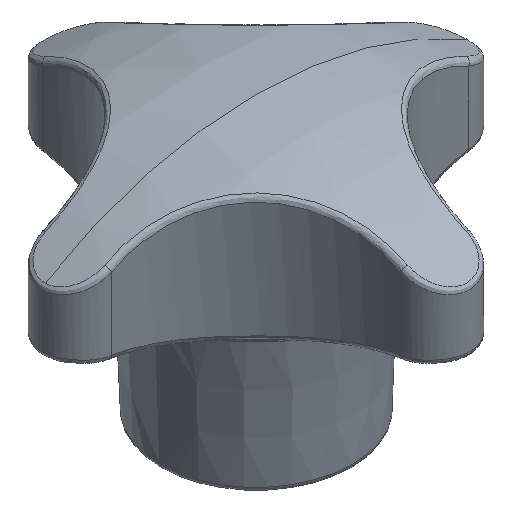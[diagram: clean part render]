
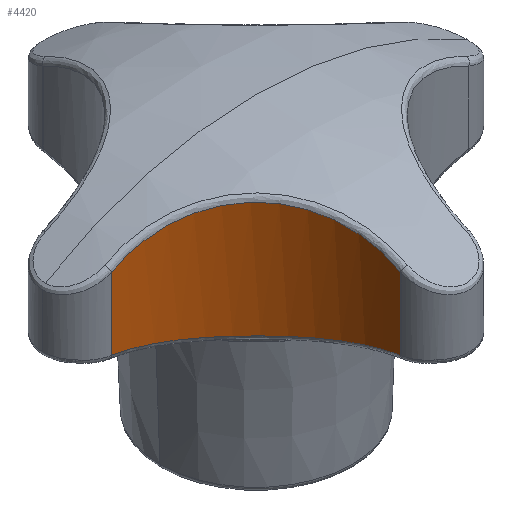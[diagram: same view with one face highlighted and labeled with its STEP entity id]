
A CAD part, isometric view. The second image highlights one B-rep face of the part: STEP entity #4420.
In plain terms, the highlighted cylindrical face has radius 13.231 mm (diameter 26.462 mm), a partial arc.
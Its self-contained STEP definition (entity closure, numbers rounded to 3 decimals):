
#1499 = CARTESIAN_POINT ( 'NONE',  ( -16.727, -3.18, 14.766 ) ) ;
#1675 = CARTESIAN_POINT ( 'NONE',  ( -16.727, -3.18, 21.509 ) ) ;
#1703 = CARTESIAN_POINT ( 'NONE',  ( -16.727, -3.18, 26. ) ) ;
#1704 = LINE ( 'NONE', #1703, #1728 ) ;
#1717 = DIRECTION ( 'NONE',  ( 0., 0., -1. ) ) ;
#1728 = VECTOR ( 'NONE', #1717, 1000. ) ;
#2116 = CYLINDRICAL_SURFACE ( 'NONE', #2191, 13.231 ) ;
#2117 = CARTESIAN_POINT ( 'NONE',  ( -4.407, -10.805, 23.792 ) ) ;
#2118 = CARTESIAN_POINT ( 'NONE',  ( -3.924, -12.055, 23.43 ) ) ;
#2119 = CARTESIAN_POINT ( 'NONE',  ( -3.784, -12.48, 23.294 ) ) ;
#2120 = CARTESIAN_POINT ( 'NONE',  ( -3.55, -13.335, 22.998 ) ) ;
#2121 = CARTESIAN_POINT ( 'NONE',  ( -3.456, -13.761, 22.838 ) ) ;
#2122 = CARTESIAN_POINT ( 'NONE',  ( -3.239, -15.034, 22.327 ) ) ;
#2123 = CARTESIAN_POINT ( 'NONE',  ( -3.18, -15.875, 21.944 ) ) ;
#2124 = CARTESIAN_POINT ( 'NONE',  ( -3.199, -16.708, 21.517 ) ) ;
#2126 = B_SPLINE_CURVE_WITH_KNOTS ( 'NONE', 3,
 ( #2124, #2123, #2122, #2121, #2120, #2119, #2118, #2117, #2175, #2174, #2173, #2172, #2171, #2170, #2169, #2168, #2167, #2166, #2165, #2164, #2163, #2162, #2161, #2160, #2159, #2158, #2157, #2156 ),
 .UNSPECIFIED., .F., .F.,
 ( 4, 2, 2, 2, 2, 2, 2, 2, 2, 2, 2, 2, 2, 4 ),
 ( 0., 0.003, 0.004, 0.006, 0.008, 0.01, 0.011, 0.012, 0.014, 0.015, 0.017, 0.019, 0.021, 0.022 ),
 .UNSPECIFIED. ) ;
#2156 = CARTESIAN_POINT ( 'NONE',  ( -16.727, -3.18, 21.509 ) ) ;
#2157 = CARTESIAN_POINT ( 'NONE',  ( -16.31, -3.17, 21.723 ) ) ;
#2158 = CARTESIAN_POINT ( 'NONE',  ( -15.89, -3.18, 21.927 ) ) ;
#2159 = CARTESIAN_POINT ( 'NONE',  ( -15.041, -3.242, 22.315 ) ) ;
#2160 = CARTESIAN_POINT ( 'NONE',  ( -14.612, -3.294, 22.498 ) ) ;
#2161 = CARTESIAN_POINT ( 'NONE',  ( -13.333, -3.514, 23.012 ) ) ;
#2162 = CARTESIAN_POINT ( 'NONE',  ( -12.485, -3.745, 23.306 ) ) ;
#2163 = CARTESIAN_POINT ( 'NONE',  ( -11.221, -4.235, 23.672 ) ) ;
#2164 = CARTESIAN_POINT ( 'NONE',  ( -10.806, -4.421, 23.78 ) ) ;
#2165 = CARTESIAN_POINT ( 'NONE',  ( -9.996, -4.835, 23.966 ) ) ;
#2166 = CARTESIAN_POINT ( 'NONE',  ( -9.601, -5.064, 24.044 ) ) ;
#2167 = CARTESIAN_POINT ( 'NONE',  ( -8.83, -5.565, 24.17 ) ) ;
#2168 = CARTESIAN_POINT ( 'NONE',  ( -8.453, -5.839, 24.218 ) ) ;
#2169 = CARTESIAN_POINT ( 'NONE',  ( -7.728, -6.427, 24.282 ) ) ;
#2170 = CARTESIAN_POINT ( 'NONE',  ( -7.384, -6.738, 24.297 ) ) ;
#2171 = CARTESIAN_POINT ( 'NONE',  ( -6.732, -7.392, 24.297 ) ) ;
#2172 = CARTESIAN_POINT ( 'NONE',  ( -6.423, -7.736, 24.281 ) ) ;
#2173 = CARTESIAN_POINT ( 'NONE',  ( -5.842, -8.456, 24.217 ) ) ;
#2174 = CARTESIAN_POINT ( 'NONE',  ( -5.567, -8.835, 24.168 ) ) ;
#2175 = CARTESIAN_POINT ( 'NONE',  ( -4.815, -9.999, 23.977 ) ) ;
#2179 = B_SPLINE_CURVE_WITH_KNOTS ( 'NONE', 3,
 ( #2240, #2239, #2238, #2237, #2236, #2235, #2229, #2228, #2227, #2226, #2225, #2224, #2223, #2222, #2221, #2220, #2219, #2218, #2217, #2216, #2215, #2214 ),
 .UNSPECIFIED., .F., .F.,
 ( 4, 2, 2, 2, 2, 2, 2, 2, 2, 2, 4 ),
 ( 0., 0.003, 0.004, 0.005, 0.008, 0.009, 0.011, 0.013, 0.016, 0.019, 0.021 ),
 .UNSPECIFIED. ) ;
#2182 = DIRECTION ( 'NONE',  ( 0., 0., -1. ) ) ;
#2183 = VECTOR ( 'NONE', #2182, 1000. ) ;
#2185 = CARTESIAN_POINT ( 'NONE',  ( -3.199, -16.708, 26. ) ) ;
#2186 = LINE ( 'NONE', #2185, #2183 ) ;
#2187 = DIRECTION ( 'NONE',  ( -1., 0., 0. ) ) ;
#2188 = DIRECTION ( 'NONE',  ( 0., 0., -1. ) ) ;
#2189 = CARTESIAN_POINT ( 'NONE',  ( -16.427, -16.408, 26. ) ) ;
#2191 = AXIS2_PLACEMENT_3D ( 'NONE', #2189, #2188, #2187 ) ;
#2198 = CARTESIAN_POINT ( 'NONE',  ( -3.199, -16.708, 14.763 ) ) ;
#2199 = FACE_OUTER_BOUND ( 'NONE', #4352, .T. ) ;
#2201 = CARTESIAN_POINT ( 'NONE',  ( -3.199, -16.708, 21.517 ) ) ;
#2214 = CARTESIAN_POINT ( 'NONE',  ( -3.199, -16.708, 14.763 ) ) ;
#2215 = CARTESIAN_POINT ( 'NONE',  ( -3.179, -15.816, 14.601 ) ) ;
#2216 = CARTESIAN_POINT ( 'NONE',  ( -3.248, -14.934, 14.444 ) ) ;
#2217 = CARTESIAN_POINT ( 'NONE',  ( -3.562, -13.191, 14.143 ) ) ;
#2218 = CARTESIAN_POINT ( 'NONE',  ( -3.811, -12.323, 13.999 ) ) ;
#2219 = CARTESIAN_POINT ( 'NONE',  ( -4.47, -10.673, 13.749 ) ) ;
#2220 = CARTESIAN_POINT ( 'NONE',  ( -4.881, -9.883, 13.642 ) ) ;
#2221 = CARTESIAN_POINT ( 'NONE',  ( -5.876, -8.373, 13.49 ) ) ;
#2222 = CARTESIAN_POINT ( 'NONE',  ( -6.443, -7.679, 13.449 ) ) ;
#2223 = CARTESIAN_POINT ( 'NONE',  ( -7.392, -6.732, 13.45 ) ) ;
#2224 = CARTESIAN_POINT ( 'NONE',  ( -7.724, -6.431, 13.46 ) ) ;
#2225 = CARTESIAN_POINT ( 'NONE',  ( -8.424, -5.861, 13.501 ) ) ;
#2226 = CARTESIAN_POINT ( 'NONE',  ( -8.791, -5.593, 13.531 ) ) ;
#2227 = CARTESIAN_POINT ( 'NONE',  ( -9.912, -4.857, 13.645 ) ) ;
#2228 = CARTESIAN_POINT ( 'NONE',  ( -10.699, -4.447, 13.752 ) ) ;
#2229 = CARTESIAN_POINT ( 'NONE',  ( -11.939, -3.953, 13.94 ) ) ;
#2235 = CARTESIAN_POINT ( 'NONE',  ( -12.365, -3.807, 14.008 ) ) ;
#2236 = CARTESIAN_POINT ( 'NONE',  ( -13.222, -3.563, 14.149 ) ) ;
#2237 = CARTESIAN_POINT ( 'NONE',  ( -13.653, -3.463, 14.222 ) ) ;
#2238 = CARTESIAN_POINT ( 'NONE',  ( -14.955, -3.229, 14.447 ) ) ;
#2239 = CARTESIAN_POINT ( 'NONE',  ( -15.835, -3.16, 14.604 ) ) ;
#2240 = CARTESIAN_POINT ( 'NONE',  ( -16.727, -3.18, 14.766 ) ) ;
#4193 = VERTEX_POINT ( 'NONE', #1499 ) ;
#4261 = EDGE_CURVE ( 'NONE', #4262, #4193, #1704, .T. ) ;
#4262 = VERTEX_POINT ( 'NONE', #1675 ) ;
#4352 = EDGE_LOOP ( 'NONE', ( #4358, #4433, #4419, #4405 ) ) ;
#4358 = ORIENTED_EDGE ( 'NONE', *, *, #4261, .T. ) ;
#4401 = EDGE_CURVE ( 'NONE', #4416, #4262, #2126, .T. ) ;
#4405 = ORIENTED_EDGE ( 'NONE', *, *, #4401, .T. ) ;
#4416 = VERTEX_POINT ( 'NONE', #2201 ) ;
#4417 = VERTEX_POINT ( 'NONE', #2198 ) ;
#4419 = ORIENTED_EDGE ( 'NONE', *, *, #4423, .F. ) ;
#4420 = ADVANCED_FACE ( 'NONE', ( #2199 ), #2116, .F. ) ;
#4423 = EDGE_CURVE ( 'NONE', #4416, #4417, #2186, .T. ) ;
#4424 = EDGE_CURVE ( 'NONE', #4193, #4417, #2179, .T. ) ;
#4433 = ORIENTED_EDGE ( 'NONE', *, *, #4424, .T. ) ;
